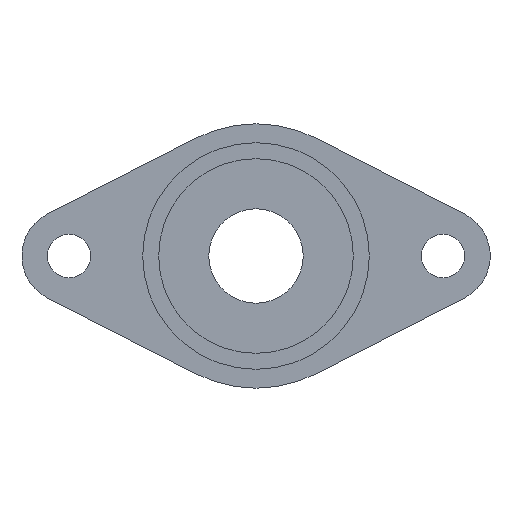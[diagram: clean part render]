
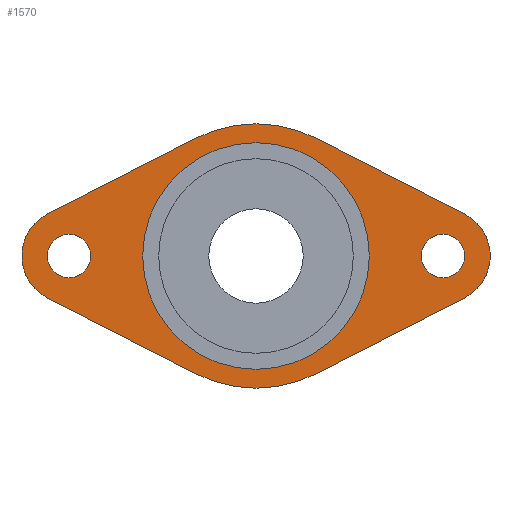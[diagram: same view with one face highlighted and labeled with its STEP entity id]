
A CAD part, left-side view. The second image highlights one B-rep face of the part: STEP entity #1570.
In plain terms, the highlighted planar face has unit normal (-1, 0, 0).
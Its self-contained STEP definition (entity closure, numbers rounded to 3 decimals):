
#370=CARTESIAN_POINT('',(-19.,77.,0.));
#380=DIRECTION('',(-1.,0.,0.));
#390=DIRECTION('',(0.,1.,0.));
#400=AXIS2_PLACEMENT_3D('',#370,#380,#390);
#410=PLANE('',#400);
#420=CARTESIAN_POINT('',(-19.,0.,39.294));
#430=DIRECTION('',(0.,-0.891,0.455));
#440=VECTOR('',#430,1.);
#450=LINE('',#420,#440);
#460=CARTESIAN_POINT('',(-19.,55.182,11.134));
#470=VERTEX_POINT('',#460);
#480=CARTESIAN_POINT('',(-19.,15.909,31.175));
#490=VERTEX_POINT('',#480);
#500=EDGE_CURVE('',#470,#490,#450,.T.);
#510=ORIENTED_EDGE('',*,*,#500,.F.);
#520=CARTESIAN_POINT('',(-19.,0.,0.)
);
#530=DIRECTION('',(-1.,0.,0.));
#540=DIRECTION('',(0.,0.455,0.891));
#550=AXIS2_PLACEMENT_3D('',#520,#530,#540);
#560=CIRCLE('',#550,35.);
#570=CARTESIAN_POINT('',(-19.,-15.909,31.175));
#580=VERTEX_POINT('',#570);
#590=EDGE_CURVE('',#580,#490,#560,.T.);
#600=ORIENTED_EDGE('',*,*,#590,.T.);
#610=CARTESIAN_POINT('',(-19.,0.,39.294));
#620=DIRECTION('',(0.,-0.891,-0.455));
#630=VECTOR('',#620,1.);
#640=LINE('',#610,#630);
#650=CARTESIAN_POINT('',(-19.,-55.182,11.134));
#660=VERTEX_POINT('',#650);
#670=EDGE_CURVE('',#580,#660,#640,.T.);
#680=ORIENTED_EDGE('',*,*,#670,.F.);
#690=CARTESIAN_POINT('',(-19.,-49.5,0.));
#700=DIRECTION('',(-1.,0.,0.));
#710=DIRECTION('',(0.,-0.455,0.891));
#720=AXIS2_PLACEMENT_3D('',#690,#700,#710);
#730=CIRCLE('',#720,12.5);
#740=CARTESIAN_POINT('',(-19.,-55.182,-11.134));
#750=VERTEX_POINT('',#740);
#760=EDGE_CURVE('EDGE7286',#750,#660,#730,.T.);
#770=ORIENTED_EDGE('',*,*,#760,.T.);
#780=CARTESIAN_POINT('',(-19.,0.,-39.294));
#790=DIRECTION('',(0.,0.891,-0.455));
#800=VECTOR('',#790,1.);
#810=LINE('',#780,#800);
#820=CARTESIAN_POINT('',(-19.,-15.909,-31.175));
#830=VERTEX_POINT('',#820);
#840=EDGE_CURVE('',#750,#830,#810,.T.);
#850=ORIENTED_EDGE('',*,*,#840,.F.);
#860=CARTESIAN_POINT('',(-19.,0.,0.)
);
#870=DIRECTION('',(-1.,0.,0.));
#880=DIRECTION('',(0.,-0.455,-0.891));
#890=AXIS2_PLACEMENT_3D('',#860,#870,#880);
#900=CIRCLE('',#890,35.);
#910=CARTESIAN_POINT('',(-19.,15.909,-31.175));
#920=VERTEX_POINT('',#910);
#930=EDGE_CURVE('',#920,#830,#900,.T.);
#940=ORIENTED_EDGE('',*,*,#930,.T.);
#950=CARTESIAN_POINT('',(-19.,0.,-39.294));
#960=DIRECTION('',(0.,0.891,0.455));
#970=VECTOR('',#960,1.);
#980=LINE('',#950,#970);
#990=CARTESIAN_POINT('',(-19.,55.182,-11.134));
#1000=VERTEX_POINT('',#990);
#1010=EDGE_CURVE('',#920,#1000,#980,.T.);
#1020=ORIENTED_EDGE('',*,*,#1010,.F.);
#1030=CARTESIAN_POINT('',(-19.,49.5,0.));
#1040=DIRECTION('',(-1.,0.,0.));
#1050=DIRECTION('',(0.,0.455,-0.891));
#1060=AXIS2_PLACEMENT_3D('',#1030,#1040,#1050);
#1070=CIRCLE('',#1060,12.5);
#1080=EDGE_CURVE('EDGE7294',#470,#1000,#1070,.T.);
#1090=ORIENTED_EDGE('',*,*,#1080,.T.);
#1100=EDGE_LOOP('',(#1090,#1020,#940,#850,#770,#680,#600,#510));
#1110=FACE_OUTER_BOUND('',#1100,.T.);
#1120=CARTESIAN_POINT('',(-19.,-49.5,0.));
#1130=DIRECTION('',(1.,0.,0.));
#1140=DIRECTION('',(0.,0.,-1.));
#1150=AXIS2_PLACEMENT_3D('',#1120,#1130,#1140);
#1160=CIRCLE('',#1150,5.75);
#1170=CARTESIAN_POINT('',(-19.,-49.5,5.75));
#1180=VERTEX_POINT('VERTEX4846',#1170);
#1190=CARTESIAN_POINT('',(-19.,-49.5,-5.75));
#1200=VERTEX_POINT('',#1190);
#1210=EDGE_CURVE('',#1180,#1200,#1160,.T.);
#1220=ORIENTED_EDGE('',*,*,#1210,.T.);
#1230=EDGE_CURVE('EDGE7301',#1200,#1180,#1160,.T.);
#1240=ORIENTED_EDGE('',*,*,#1230,.T.);
#1250=EDGE_LOOP('',(#1240,#1220));
#1260=FACE_BOUND('',#1250,.T.);
#1270=CARTESIAN_POINT('',(-19.,0.,0.));
#1280=DIRECTION('',(-1.,0.,0.));
#1290=DIRECTION('',(0.,1.,0.));
#1300=AXIS2_PLACEMENT_3D('',#1270,#1280,#1290);
#1310=CIRCLE('',#1300,30.);
#1320=CARTESIAN_POINT('',(-19.,-30.,0.));
#1330=VERTEX_POINT('VERTEX4854',#1320);
#1340=CARTESIAN_POINT('',(-19.,30.,0.));
#1350=VERTEX_POINT('',#1340);
#1360=EDGE_CURVE('',#1330,#1350,#1310,.T.);
#1370=ORIENTED_EDGE('',*,*,#1360,.F.);
#1380=EDGE_CURVE('EDGE7315',#1350,#1330,#1310,.T.);
#1390=ORIENTED_EDGE('',*,*,#1380,.F.);
#1400=EDGE_LOOP('',(#1390,#1370));
#1410=FACE_BOUND('',#1400,.T.);
#1420=CARTESIAN_POINT('',(-19.,49.5,0.));
#1430=DIRECTION('',(1.,0.,0.));
#1440=DIRECTION('',(0.,0.,-1.));
#1450=AXIS2_PLACEMENT_3D('',#1420,#1430,#1440);
#1460=CIRCLE('',#1450,5.75);
#1470=CARTESIAN_POINT('',(-19.,49.5,5.75));
#1480=VERTEX_POINT('VERTEX4844',#1470);
#1490=CARTESIAN_POINT('',(-19.,49.5,-5.75));
#1500=VERTEX_POINT('',#1490);
#1510=EDGE_CURVE('',#1480,#1500,#1460,.T.);
#1520=ORIENTED_EDGE('',*,*,#1510,.T.);
#1530=EDGE_CURVE('EDGE7297',#1500,#1480,#1460,.T.);
#1540=ORIENTED_EDGE('',*,*,#1530,.T.);
#1550=EDGE_LOOP('',(#1540,#1520));
#1560=FACE_BOUND('',#1550,.T.);
#1570=ADVANCED_FACE('',(#1110,#1260,#1410,#1560),#410,.T.);
